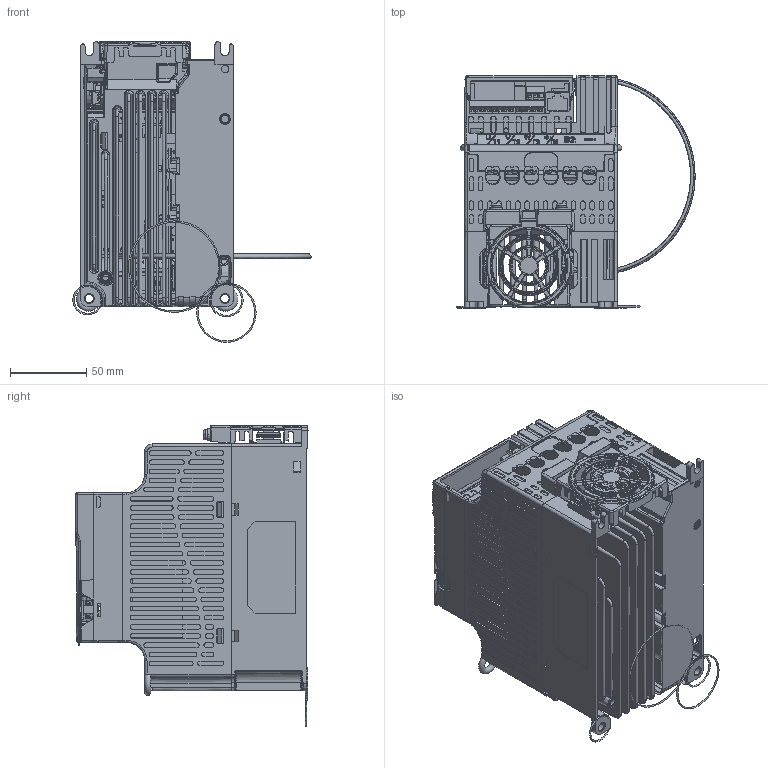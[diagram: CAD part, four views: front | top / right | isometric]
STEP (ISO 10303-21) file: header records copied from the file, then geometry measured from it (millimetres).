
FILE_DESCRIPTION((''),'2;1');
FILE_NAME('VFD-E-B1-PD-3D00','2009-11-11T',('KADY.CHANG'),(''),'PRO/ENGINEER BY PARAMETRIC TECHNOLOGY CORPORATION, 2007390','PRO/ENGINEER BY PARAMETRIC TECHNOLOGY CORPORATION, 2007390','');
FILE_SCHEMA(('CONFIG_CONTROL_DESIGN'));
Products named in the file (1): VFD-E-B1-PD-3D00
Bounding box: 156.34 x 152.27 x 197.27 mm (x, y, z)
Surface area: 280222.3 mm2 (no closed solid volume)
Topology: 0 solids, 0 shells, 1521 faces, 13098 edges, 12984 vertices
Faces by surface type: bspline 1389, torus 131, sphere 1
Entity records: 214733 total; most frequent: CARTESIAN_POINT 85186, DIRECTION 22193, TRIMMED_CURVE 19558, VECTOR 17187, LINE 17187, DEFINITIONAL_REPRESENTATION 12871, PCURVE 12871, COMPOSITE_CURVE_SEGMENT 12871
